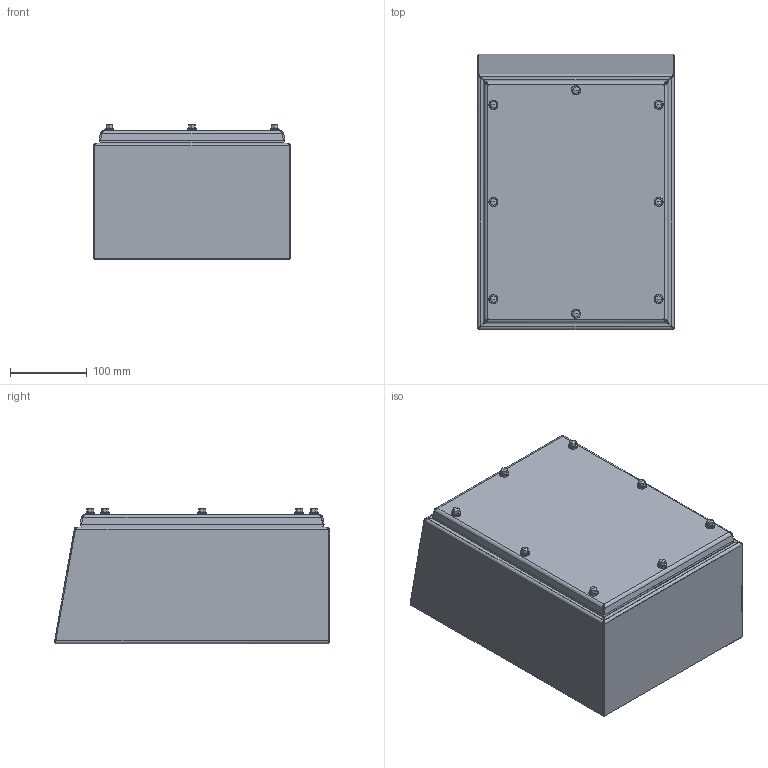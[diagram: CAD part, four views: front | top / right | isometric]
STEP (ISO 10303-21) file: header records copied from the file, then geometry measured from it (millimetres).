
FILE_DESCRIPTION (( 'STEP AP203' ), '1' );
FILE_NAME ('hsds131006ss.STEP', '2019-08-08T13:24:24', ( '' ), ( '' ), 'SwSTEP 2.0', 'SolidWorks 2016', '' );
FILE_SCHEMA (( 'CONFIG_CONTROL_DESIGN' ));
Length unit declared in the file: inch
Products named in the file (17): 89157132; 89124340; 89129096_Rivnut version; 89157251; 89144636_96194A101; 58110002; 89129101; 54106002; hsds131006ss; 89129079_Rivnuts; 89129113; 99417344; 89129107; 89129085_No flange; 89154854; 89129119; 89129091_Rivnut version
Assembly tree (49 placements, depth 4):
  hsds131006ss
    89129079_Rivnuts
      89129085_No flange
      89129091_Rivnut version
      89129096_Rivnut version
      58110002  x8
      54106002  x4
    89129101
      89129107
        89129113
        99417344  x2
      89129119
      89124340
      89144636_96194A101  x2
      89154854  x8
      89157132  x8
      89157251  x8
Bounding box: 257.18 x 359.9 x 177.21 mm (x, y, z)
Volume: 654276.5 mm3; surface area: 887227.4 mm2
Topology: 46 solids, 46 shells, 1235 faces, 2941 edges, 1846 vertices
Faces by surface type: plane 596, cylinder 382, cone 116, bspline 53, torus 48, sphere 40
Entity records: 20300 total; most frequent: CARTESIAN_POINT 5249, ORIENTED_EDGE 2648, DIRECTION 2382, EDGE_CURVE 1324, VERTEX_POINT 830, VECTOR 824, LINE 824, AXIS2_PLACEMENT_3D 779
